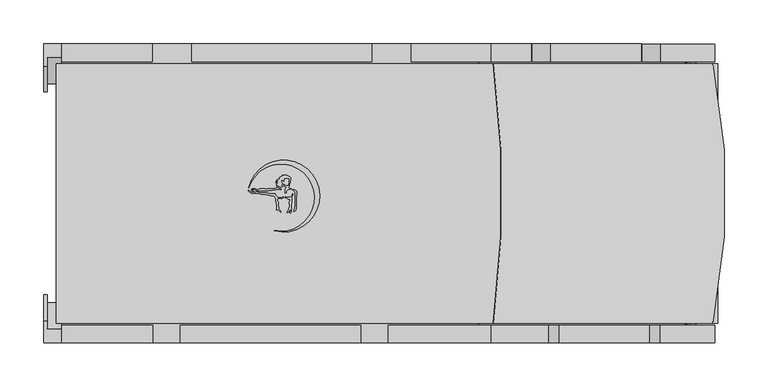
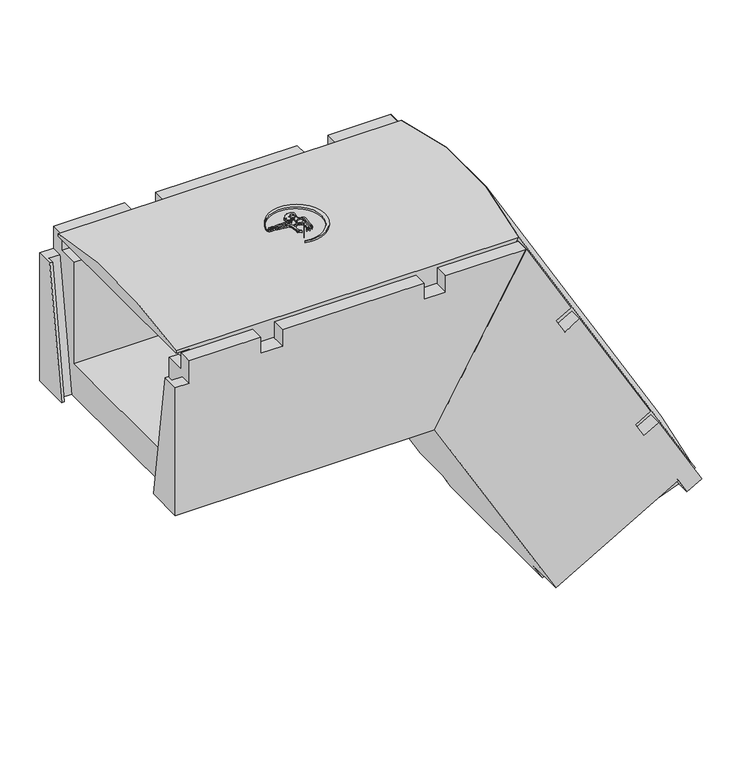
"""IFC4 building model written with IfcOpenShell, lengths in millimetres: cable carrier fitting geometry, Evotray type 2 vertical bend down : Evotray type 2 vertical bend down."""

from ifc_helpers import new_model, si_unit, point, frame, frame_2d, origin, place, context, project, spatial, polyline, circle_curve, ellipse_curve, trimmed, segment, composite_curve, outline, extrude, faceted_brep, source, transform, mapped, element, save
from ifc_brep_helpers import plane_surface, cylinder_surface, advanced_brep


def cable_carrier_fitting_b2b6a291(model_context):
    return source(origin(), model_context, "Body", "SolidModel", [
        extrude(outline(composite_curve([segment(polyline([(-105.1987673, 5.907559), (-103.7730763, 5.0844359), (-104.4820077, 4.6751342), (-107.0469375, 4.6751342), (-109.5064308, 2.2156409), (-109.5064308, 0.6319729), (-110.5639447, 0.3486129), (-110.8953119, 1.5852919), (-110.5730905, 2.7878385), (-110.5730905, 5.0146536), (-109.1065498, 6.4811943), (-109.5064308, 7.1738084), (-110.5730905, 7.7896447), (-111.4313624, 8.2851682), (-112.4244859, 9.2782918), (-112.4244859, 10.5283487), (-111.6366917, 10.0735155), (-110.5730905, 9.0099142), (-109.5064308, 8.394078), (-107.1936661, 8.394078), (-106.5617675, 9.0259766), (-106.5617675, 10.6343813), (-106.1559104, 11.3373462), (-105.9163405, 12.2314336), (-105.9163405, 16.3268685), (-106.5617675, 16.9722955), (-110.5730905, 17.3232408), (-111.3212546, 16.8912881), (-111.7531031, 16.1433045), (-111.9754965, 15.313321), (-112.2482129, 13.7666695), (-112.8042347, 14.3226912), (-113.3698905, 14.8883471), (-114.3304254, 14.8883471), (-114.8048648, 14.0665939), (-114.8048648, 13.2416885), (-114.4028177, 12.5453225), (-113.675123, 11.8176278), (-114.0717623, 10.3373496), (-114.4092623, 9.0777826), (-114.1064549, 7.3604762), (-114.907248, 7.2192748), (-116.6376932, 7.6829462), (-117.8844025, 8.2642963), (-118.6376597, 8.6155459), (-120.2371082, 8.33352), (-119.7695498, 9.1433549), (-118.1127288, 9.7463885)]), True, "CONTINUOUS"), segment(trimmed(circle_curve(frame_2d((-118.6788564, 9.4744491)), 0.6280537), [point((-118.1127288, 9.7463885))], [point((-118.8344386, 10.0829273))], True, "CARTESIAN"), True, "CONTINUOUS"), segment(polyline([(-118.8344386, 10.0829273), (-120.7814537, 10.0829273), (-120.2232755, 10.6411054), (-119.3724958, 10.9507639), (-118.5540563, 11.2486515)]), True, "CONTINUOUS"), segment(trimmed(circle_curve(frame_2d((-119.2923812, 11.2486515)), 0.7383249), [point((-118.5540563, 11.2486515))], [point((-119.2923812, 11.9869764))], True, "CARTESIAN"), True, "CONTINUOUS"), segment(polyline([(-119.2923812, 11.9869764), (-121.0001288, 11.9869764), (-121.3916504, 12.6651117), (-119.5730583, 12.9857785), (-118.2767203, 13.457607), (-118.897473, 14.0783597), (-120.8606925, 14.0783597), (-120.30811, 14.6309421), (-119.2782773, 15.2255163), (-118.603553, 15.9002407), (-117.8807357, 16.3175594), (-116.9057237, 16.8804829)]), True, "CONTINUOUS"), segment(trimmed(circle_curve(frame_2d((-117.1167091, 17.2459203)), 0.4219708), [point((-116.9057237, 16.8804829))], [point((-117.3276945, 17.6113577))], True, "CARTESIAN"), True, "CONTINUOUS"), segment(polyline([(-117.3276945, 17.6113577), (-116.7102978, 18.2287544), (-115.4076278, 18.7028875), (-114.4125713, 19.2773836), (-113.2810347, 19.4769041), (-113.6348604, 20.4490324), (-108.6348604, 20.4490324), (-107.6206866, 19.9761154), (-106.4988316, 19.6755153), (-105.4843855, 19.0898245), (-104.3757091, 17.9811481), (-104.3757091, 15.4151328), (-104.8646262, 14.5683035), (-104.8646262, 11.8362675), (-105.3536612, 10.7875287), (-105.760463, 10.0829273), (-105.760463, 8.2341629), (-106.5617675, 7.7715296), (-107.3950459, 7.6246001)]), True, "CONTINUOUS"), segment(trimmed(circle_curve(frame_2d((-106.3420944, 7.3424626)), 1.0900956), [point((-107.3950459, 7.6246001))], [point((-106.6242319, 6.2895111))], True, "CARTESIAN"), True, "CONTINUOUS"), segment(polyline([(-106.6242319, 6.2895111), (-105.1987673, 5.907559)]), True, "CONTINUOUS")], self_intersect=False)), frame((0.0, 0.0, 229.0645802), z_axis=(0.0, 0.0, 1.0), x_axis=(1.0, 0.0, 0.0)), (0.0, 0.0, 1.0), 22.5),
        extrude(outline(polyline([(-100.6420581, 3.0525563), (-102.5647021, 4.1625953), (-101.375462, 4.4812513), (-100.0006066, 3.9808448), (-97.8744575, 2.753312), (-97.462808, 1.2170154), (-97.462808, -1.5561738), (-97.8811889, -3.9289297), (-98.2073261, -13.2682758), (-98.2073261, -16.1231727), (-98.766974, -19.297094), (-99.9259981, -20.4561181), (-100.8234867, -20.4561181), (-100.1486125, -18.6019165), (-99.8396569, -16.8497423), (-99.3251997, -13.9321102), (-99.3251997, -2.6926455), (-98.883565, -0.1880111), (-99.4260419, 1.8365401), (-100.6420581, 3.0525563)])), frame((0.0, 0.0, 229.0645802), z_axis=(0.0, 0.0, 1.0), x_axis=(1.0, 0.0, 0.0)), (0.0, 0.0, 1.0), 22.5),
        extrude(outline(composite_curve([segment(polyline([(-108.070307, -4.5554644), (-106.0881056, -4.5554644), (-104.6198413, -4.2965698), (-103.3145593, -2.9912878), (-102.1344504, -0.4605362), (-101.6534984, -1.7819409), (-102.2762062, -3.117342), (-102.9468137, -4.5554644), (-102.9468137, -10.5136603), (-103.3751928, -12.943119), (-103.3751928, -21.4242609), (-104.8238515, -22.8729196), (-105.3965887, -22.3001824), (-104.7178687, -20.5578122), (-104.4597233, -19.0937972)]), True, "CONTINUOUS"), segment(trimmed(circle_curve(frame_2d((-104.8743713, -19.0937972)), 0.414648), [point((-104.4597233, -19.0937972))], [point((-105.2890194, -19.0937972))], True, "CARTESIAN"), True, "CONTINUOUS"), segment(polyline([(-105.2890194, -19.0937972), (-106.0547081, -19.8594859), (-107.3215546, -21.3692548), (-107.9770637, -22.0247639), (-108.7693849, -21.6552984), (-106.605165, -18.4467105), (-106.2992553, -16.7118106), (-105.4571975, -14.9060116), (-105.19999, -13.4473154), (-105.9884987, -12.0815782), (-105.9884987, -9.315031), (-104.6653502, -7.4454743)]), True, "CONTINUOUS"), segment(trimmed(circle_curve(frame_2d((-105.0024552, -7.2068937)), 0.4129897), [point((-104.6653502, -7.4454743))], [point((-105.2410358, -6.8697887))], True, "CARTESIAN"), True, "CONTINUOUS"), segment(polyline([(-105.2410358, -6.8697887), (-107.2448508, -6.516462), (-108.6887473, -5.843162), (-110.508748, -4.9944818), (-110.508748, -4.1255015), (-108.070307, -4.5554644)]), True, "CONTINUOUS")], self_intersect=False)), frame((0.0, 0.0, 229.0645802), z_axis=(0.0, 0.0, 1.0), x_axis=(1.0, 0.0, 0.0)), (0.0, 0.0, 1.0), 22.5),
        extrude(outline(composite_curve([segment(polyline([(-150.4819029, 2.2537302), (-148.7462291, 1.4443722), (-144.5597552, 1.4443722), (-143.4890341, 1.731271), (-142.1624965, 1.731271), (-140.4413877, 1.4443722), (-138.4350656, 0.9067798), (-137.2818775, 0.597784), (-131.5899708, 0.597784), (-128.9734749, 0.1616293), (-127.6459123, -0.19409), (-122.03167, -0.19409)]), True, "CONTINUOUS"), segment(trimmed(circle_curve(frame_2d((-113.1781038, 2.7115165)), 9.3181642), [point((-122.03167, -0.19409))], [point((-118.6774022, -4.8108435))], True, "CARTESIAN"), True, "CONTINUOUS"), segment(polyline([(-118.6774022, -4.8108435), (-115.6256174, -4.8108435), (-113.5910388, -4.632841), (-112.4520349, -4.1017147), (-112.7095548, -5.0627921), (-113.6536491, -5.6078652), (-114.612336, -5.9567987), (-117.847041, -5.8438403), (-119.0357356, -6.2764898), (-119.44473, -7.153581), (-119.3696494, -8.0117562), (-118.8907652, -8.8412079), (-118.1701597, -9.5618134), (-118.1701597, -11.3180259), (-118.53546, -12.3216801), (-118.3911934, -13.970655), (-117.8861011, -15.8556852), (-117.737982, -17.5486944), (-115.3666469, -20.2766033), (-115.5753239, -21.4600691), (-118.1701597, -18.8652332), (-119.1329913, -19.1232231), (-120.5361675, -18.8758053), (-120.2606072, -18.1187094), (-120.2606072, -15.8446539), (-120.0850033, -14.8487551), (-120.2606072, -12.8415943), (-120.6362696, -11.8094702), (-120.6362696, -9.9842873), (-121.0826053, -9.0271173), (-121.0826053, -6.6493678), (-121.3310455, -5.7221762), (-121.7830159, -4.9393406), (-122.2317276, -4.1621491), (-122.84617, -3.5477067), (-123.2800213, -2.6173096), (-126.8809595, -2.4915621), (-129.2251115, -2.1008055), (-131.2577048, -1.5561738), (-134.5993244, -1.2049554), (-136.6789374, -1.2049554), (-138.021172, -0.8453047), (-139.5447671, -0.4370587), (-140.8880204, 0.1893106), (-141.8824091, 0.1893106), (-144.5338495, 0.1893106), (-145.6460936, -0.1087143), (-147.5093755, 0.0871245), (-148.9984504, 0.3353447), (-150.6717579, 1.1156208), (-151.6476843, 2.0915471), (-152.2867674, 2.7306302), (-152.2867674, 3.5175099), (-150.4819029, 2.2537302)]), True, "CONTINUOUS")], self_intersect=False)), frame((0.0, 0.0, 229.0645802), z_axis=(0.0, 0.0, 1.0), x_axis=(1.0, 0.0, 0.0)), (0.0, 0.0, 1.0), 22.5),
        extrude(outline(composite_curve([segment(polyline([(-147.9796703, 3.7977023), (-146.956356, 3.2068915), (-148.6840165, 3.7265624), (-149.014163, 4.6441261), (-148.1758386, 5.4824506), (-145.30302, 5.4824506), (-144.318583, 5.0847122), (-143.2280942, 4.6441261), (-142.4299007, 4.1832889), (-141.1696706, 4.1832889), (-140.3486455, 4.4787), (-139.4633932, 4.9898007), (-133.0496883, 4.9898007), (-132.1941137, 4.6441261), (-131.1237116, 4.6441261), (-130.1629915, 4.9898007), (-128.9838348, 4.9898007), (-128.2654957, 5.4045339), (-122.8528405, 5.4045339), (-122.0925598, 5.6780888), (-120.8504018, 5.6780888), (-120.2746333, 6.2538574), (-118.3170698, 6.2538574), (-117.0290688, 5.7334711), (-116.0171524, 5.1492409), (-115.2127113, 4.8242256)]), True, "CONTINUOUS"), segment(trimmed(circle_curve(frame_2d((-115.6200436, 4.6596527)), 0.4393221), [point((-115.2127113, 4.8242256))], [point((-115.7846166, 4.2523203))], False, "CARTESIAN"), True, "CONTINUOUS"), segment(polyline([(-115.7846166, 4.2523203), (-116.8003453, 4.6627013), (-118.112003, 4.6627013), (-119.382433, 4.8867124), (-120.1944574, 4.5945398), (-121.3374314, 4.1832889), (-124.6816293, 4.1832889), (-125.4727027, 3.7265624), (-129.0400229, 3.7265624), (-129.9228853, 3.2168416), (-139.9228853, 3.2168416), (-142.5335493, 2.9884381), (-146.222077, 4.4787), (-148.3728446, 4.4787), (-147.9796703, 3.7977023)]), True, "CONTINUOUS")], self_intersect=False)), frame((0.0, 0.0, 229.0645802), z_axis=(0.0, 0.0, 1.0), x_axis=(1.0, 0.0, 0.0)), (0.0, 0.0, 1.0), 22.5),
        extrude(outline(composite_curve([segment(trimmed(circle_curve(frame_2d((-115.3994103, -4.8721323)), 38.3616107), [point((-122.8072471, -42.511701))], [point((-152.1109456, 6.2578432))], True, "CARTESIAN"), True, "CONTINUOUS"), segment(trimmed(circle_curve(frame_2d((-112.2700096, -2.9917986)), 40.900563), [point((-152.1109456, 6.2578432))], [point((-122.8072471, -42.511701))], False, "CARTESIAN"), True, "CONTINUOUS")], self_intersect=False)), frame((0.0, 0.0, 229.0645802), z_axis=(0.0, 0.0, 1.0), x_axis=(1.0, 0.0, 0.0)), (0.0, 0.0, 1.0), 22.5),
        advanced_brep(
        [(109.4418876, -147.5, 205.0), (356.6628314, -147.5, -223.1992354), (381.7567344, -147.5, -208.7112637), (375.7567344, -147.5, -198.3189589), (126.1850454, -147.5, 234.0), (356.6628314, 147.5, -223.1992354), (109.4418876, 147.5, 205.0), (126.1850454, 147.5, 234.0), (375.7775681, 147.5, -198.3069305), (381.7567344, 147.5, -208.7112637)],
        [
            (0, 1),
            (1, 2),
            (2, 3),
            (3, 4),
            (4, 0),
            (5, 6),
            (6, 7),
            (7, 8),
            (8, 9),
            (9, 5),
            (1, 5),
            (9, 2),
            (6, 0),
            (4, 7, ellipse_curve(frame((-239.9889758, 0.0, -400.2320092), z_axis=(-0.8660254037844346, 0.0, 0.5000000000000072), x_axis=(-0.5000000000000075, 0.0, -0.8660254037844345)), 751.892272, 651.1578084)),
            (8, 3),
            (8, 3, circle_curve(frame((-173.4834637, 0.0, -515.4229351), z_axis=(0.4999999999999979, 0.0, -0.8660254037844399), x_axis=(0.0, -1.0, 0.0)), 651.1578084)),
        ],
        [
            plane_surface(frame((356.6628314, -147.5, -223.1992354), z_axis=(0.0, -1.0, 0.0), x_axis=(0.8660254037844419, 0.0, 0.49999999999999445))),
            plane_surface(frame((356.6628314, 147.5, -223.1992354), z_axis=(0.0, 1.0, 0.0), x_axis=(-0.8660254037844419, 0.0, -0.49999999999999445))),
            plane_surface(frame((356.6628314, -147.5, -223.1992354), z_axis=(0.49999999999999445, 0.0, -0.8660254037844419), x_axis=(0.0, 1.0, 0.0))),
            plane_surface(frame((136.0, -147.5, 251.0), z_axis=(-0.8660254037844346, 0.0, 0.5000000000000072), x_axis=(0.0, 1.0, 0.0))),
            plane_surface(frame((109.4418876, -147.5, 205.0), z_axis=(-0.8660254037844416, 0.0, -0.49999999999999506), x_axis=(0.0, 1.0, 0.0))),
            plane_surface(frame((381.7567344, -147.5, -208.7112637), z_axis=(0.8660254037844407, 0.0, 0.49999999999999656), x_axis=(-0.49999999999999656, 0.0, 0.8660254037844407))),
            plane_surface(frame((375.7567344, -147.5, -198.3189589), z_axis=(0.4999999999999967, 0.0, -0.8660254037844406), x_axis=(0.8660254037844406, 0.0, 0.4999999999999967))),
            cylinder_surface(frame((-421.3439356, 0.0, -86.1160046), z_axis=(0.4999999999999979, 0.0, -0.8660254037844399), x_axis=(0.0, -1.0, 0.0)), 651.1578084),
        ],
        [
            (0, [[1, 2, 3, 4, 5]]),
            (1, [[6, 7, 8, 9, 10]]),
            (2, [[11, -10, 12, -2]]),
            (3, [[13, -5, 14, -7]]),
            (4, [[-1, -13, -6, -11]]),
            (5, [[15, -3, -12, -9]]),
            (6, [[-15, 16]]),
            (7, [[-4, -16, -8, -14]]),
        ],
    ),
        advanced_brep(
        [(-351.0, -147.5, 205.0), (109.4418876, -147.5, 205.0), (126.1850454, -147.5, 234.0), (-371.0, -147.5, 234.0), (-371.0, -147.5, 230.0), (-351.0, -147.5, 230.0), (109.4418876, 147.5, 205.0), (-351.0, 147.5, 205.0), (-351.0, 147.5, 230.0), (-371.0, 147.5, 230.0), (-371.0, 147.5, 234.0), (126.1850454, 147.5, 234.0)],
        [
            (0, 1),
            (1, 2),
            (2, 3),
            (3, 4),
            (4, 5),
            (5, 0),
            (6, 7),
            (7, 8),
            (8, 9),
            (9, 10),
            (10, 11),
            (11, 6),
            (9, 4),
            (3, 10, circle_curve(frame((-371.0, 0.0, -400.2320092), z_axis=(-1.0, 0.0, 0.0), x_axis=(0.0, -1.0, 0.0)), 651.1578084)),
            (6, 1),
            (0, 7),
            (11, 2, ellipse_curve(frame((-239.9889758, 0.0, -400.2320092), z_axis=(0.8660254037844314, 0.0, -0.5000000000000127), x_axis=(0.5000000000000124, 0.0, 0.8660254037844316)), 751.892272, 651.1578084)),
            (8, 5),
        ],
        [
            plane_surface(frame((-371.0, -147.5, 205.0), z_axis=(0.0, -1.0, 0.0), x_axis=(0.0, 0.0, -1.0))),
            plane_surface(frame((-371.0, 147.5, 205.0), z_axis=(0.0, 1.0, 0.0), x_axis=(0.0, 0.0, 1.0))),
            plane_surface(frame((-371.0, -147.5, 251.0), z_axis=(-1.0, 0.0, 0.0), x_axis=(0.0, 1.0, 0.0))),
            plane_surface(frame((-371.0, -147.5, 205.0), z_axis=(0.0, 0.0, -1.0), x_axis=(0.0, 1.0, 0.0))),
            plane_surface(frame((109.4418876, -147.5, 205.0), z_axis=(0.8660254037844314, 0.0, -0.5000000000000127), x_axis=(0.0, 1.0, 0.0))),
            plane_surface(frame((-371.0, 147.5, 230.0), z_axis=(0.0, 0.0, -1.0), x_axis=(-1.0, 0.0, 0.0))),
            plane_surface(frame((-351.0, -147.5, 230.0), z_axis=(-1.0, 0.0, 0.0), x_axis=(0.0, 0.0, -1.0))),
            cylinder_surface(frame((-371.0, 0.0, -400.2320092), z_axis=(1.0, 0.0, 0.0), x_axis=(0.0, -1.0, 0.0)), 651.1578084),
        ],
        [
            (0, [[1, 2, 3, 4, 5, 6]]),
            (1, [[7, 8, 9, 10, 11, 12]]),
            (2, [[13, -4, 14, -10]]),
            (3, [[15, -1, 16, -7]]),
            (4, [[-15, -12, 17, -2]]),
            (5, [[18, -5, -13, -9]]),
            (6, [[-18, -8, -16, -6]]),
            (7, [[-3, -17, -11, -14]]),
        ],
    ),
        faceted_brep([(123.8756443, -170.0, 230.0), (-8.9149176, -170.0, 0.0), (166.6276237, -170.0, -304.0486003), (344.1628314, -170.0, -201.5486003), (356.6628314, -170.0, -223.1992354), (378.3134665, -170.0, -210.6992354), (316.3134665, -170.0, -103.3120853), (294.6628314, -170.0, -115.8120853), (282.1628314, -170.0, -94.1614502), (303.8134665, -170.0, -81.6614502), (201.3134665, -170.0, 95.8737576), (179.6628314, -170.0, 83.3737576), (167.1628314, -170.0, 105.0243927), (188.8134665, -170.0, 117.5243927), (-8.9149176, 170.0, 0.0), (123.8756443, 170.0, 230.0), (169.3134665, 170.0, 151.2993834), (147.6628314, 170.0, 138.7993834), (170.1628314, 170.0, 99.8282402), (191.8134665, 170.0, 112.3282402), (294.3134665, 170.0, -65.2069675), (272.6628314, 170.0, -77.7069675), (295.1628314, 170.0, -116.6781107), (316.8134665, 170.0, -104.1781107), (378.3134665, 170.0, -210.6992354), (356.6628314, 170.0, -223.1992354), (344.1628314, 170.0, -201.5486003), (166.6276237, 170.0, -304.0486003), (356.6628314, -120.0, -223.1992354), (356.6628314, -150.0, -223.1992354), (179.1276237, -115.4, -325.6992354), (179.1276237, 115.4, -325.6992354), (356.6628314, 150.0, -223.1992354), (356.6628314, 120.0, -223.1992354), (222.4288938, 120.0, -300.6992354), (222.4288938, -120.0, -300.6992354), (378.3134665, -150.0, -210.6992354), (378.3134665, 150.0, -210.6992354), (303.8134665, -150.0, -81.6614502), (201.3134665, -150.0, 95.8737576), (191.8134665, 150.0, 112.3282402), (294.3134665, 150.0, -65.2069675), (316.3134665, -150.0, -103.3120853), (316.8134665, 150.0, -104.1781107), (123.8756443, -150.0, 230.0), (188.8134665, -150.0, 117.5243927), (123.8756443, 150.0, 230.0), (169.3134665, 150.0, 151.2993834), (109.4418876, -150.0, 205.0), (109.4418876, -120.0, 205.0), (19.9525959, -120.0, 50.0), (19.9525959, 120.0, 50.0), (109.4418876, 120.0, 205.0), (109.4418876, 150.0, 205.0), (166.6276237, 113.0, -304.0486003), (172.6276237, 113.0, -314.4409051), (172.6276237, 115.4, -314.4409051), (172.6276237, -115.4, -314.4409051), (172.6276237, -113.0, -314.4409051), (166.6276237, -113.0, -304.0486003), (350.1628314, -150.0, -211.9409051), (344.1628314, -150.0, -201.5486003), (294.6628314, -150.0, -115.8120853), (282.1628314, -150.0, -94.1614502), (179.6628314, -150.0, 83.3737576), (167.1628314, -150.0, 105.0243927), (295.1628314, 150.0, -116.6781107), (344.1628314, 150.0, -201.5486003), (350.1628314, 150.0, -211.9409051), (170.1628314, 150.0, 99.8282402), (272.6628314, 150.0, -77.7069675), (147.6628314, 150.0, 138.7993834), (344.1628314, -147.6, -201.5486003), (350.1628314, -147.6, -211.9409051), (350.1628314, 147.6, -211.9409051), (344.1628314, 147.6, -201.5486003)], [[[0, 1, 2, 3, 4, 5, 6, 7, 8, 9, 10, 11, 12, 13]], [[14, 15, 16, 17, 18, 19, 20, 21, 22, 23, 24, 25, 26, 27]], [[28, 29, 30, 31, 32, 33, 34, 35]], [[36, 5, 4, 29]], [[24, 37, 32, 25]], [[10, 9, 38, 39]], [[20, 19, 40, 41]], [[5, 36, 42, 6]], [[37, 24, 23, 43]], [[44, 0, 13, 45]], [[15, 46, 47, 16]], [[1, 0, 44, 48, 49, 50, 51, 52, 53, 46, 15, 14]], [[1, 14, 27, 54, 55, 56, 31, 30, 57, 58, 59, 2]], [[36, 29, 60, 61, 62, 42]], [[39, 38, 63, 64]], [[48, 44, 45, 65]], [[32, 37, 43, 66, 67, 68]], [[41, 40, 69, 70]], [[46, 53, 71, 47]], [[49, 48, 65, 12, 11, 64, 63, 8, 7, 62, 61, 72, 73, 60, 29, 28]], [[53, 52, 33, 32, 68, 74, 75, 67, 66, 22, 21, 70, 69, 18, 17, 71]], [[35, 50, 49, 28]], [[51, 34, 33, 52]], [[50, 35, 34, 51]], [[60, 29, 4, 3, 61]], [[29, 60, 57, 30]], [[32, 68, 67, 26, 25]], [[68, 32, 31, 56]], [[58, 73, 72, 59]], [[59, 72, 61, 3, 2]], [[73, 58, 57, 60]], [[54, 75, 74, 55]], [[75, 54, 27, 26, 67]], [[55, 74, 68, 56]], [[70, 21, 20, 41]], [[22, 66, 43, 23]], [[62, 7, 6, 42]], [[8, 63, 38, 9]], [[71, 17, 16, 47]], [[18, 69, 40, 19]], [[64, 11, 10, 39]], [[12, 65, 45, 13]]]),
        faceted_brep([(-385.0, -170.0, 0.0), (-8.9149176, -170.0, 0.0), (123.8756443, -170.0, 230.0), (6.6963481, -170.0, 230.0), (6.6963481, -170.0, 205.0), (-24.6518259, -170.0, 205.0), (-24.6518259, -170.0, 230.0), (-229.6518259, -170.0, 230.0), (-229.6518259, -170.0, 205.0), (-261.0, -170.0, 205.0), (-261.0, -170.0, 230.0), (-365.0130369, -170.0, 230.0), (-365.0130369, -170.0, 196.0), (-385.0, -170.0, 196.0), (123.8756443, 170.0, 230.0), (-8.9149176, 170.0, 0.0), (-385.0, 170.0, 0.0), (-385.0, 170.0, 196.0), (-365.0130369, 170.0, 196.0), (-365.0130369, 170.0, 230.0), (-262.0, 170.0, 230.0), (-262.0, 170.0, 205.0), (-217.0, 170.0, 205.0), (-217.0, 170.0, 230.0), (-12.0, 170.0, 230.0), (-12.0, 170.0, 205.0), (33.0, 170.0, 205.0), (33.0, 170.0, 230.0), (-24.6518259, -150.0, 230.0), (-229.6518259, -150.0, 230.0), (-217.0, 150.0, 230.0), (-12.0, 150.0, 230.0), (123.8756443, -150.0, 230.0), (6.6963481, -150.0, 230.0), (123.8756443, 150.0, 230.0), (33.0, 150.0, 230.0), (-365.0130369, -150.0, 230.0), (-261.0, -150.0, 230.0), (-365.0130369, 150.0, 230.0), (-262.0, 150.0, 230.0), (-385.0, -115.45, 0.0), (-385.0, -144.8926087, 196.0), (-385.0, 115.45, 0.0), (-385.0, 144.8926087, 196.0), (-381.0, -115.45, 0.0), (-381.0, -124.6, 0.0), (-365.0, -124.6, 0.0), (-365.0, 124.6, 0.0), (-381.0, 124.6, 0.0), (-381.0, 115.45, 0.0), (109.4418876, 150.0, 205.0), (109.4418876, 120.0, 205.0), (19.9525959, 120.0, 50.0), (19.9525959, -120.0, 50.0), (109.4418876, -120.0, 205.0), (109.4418876, -150.0, 205.0), (-381.0, 144.8926087, 196.0), (-381.0, -144.8926087, 196.0), (-365.0, 154.0426087, 196.0), (-381.0, 154.0426087, 196.0), (-381.0, -154.0426087, 196.0), (-365.0, -154.0426087, 196.0), (-365.0, -150.0, 205.0), (-365.0, -147.5, 205.0), (-365.0, -120.0, 205.0), (-365.0, -120.0, 50.0), (-365.0, 120.0, 50.0), (-365.0, 120.0, 205.0), (-365.0, 147.5, 205.0), (-365.0, 150.0, 205.0), (-24.6518259, -150.0, 205.0), (-229.6518259, -150.0, 205.0), (6.6963481, -150.0, 205.0), (-261.0, -150.0, 205.0), (-217.0, 150.0, 205.0), (-12.0, 150.0, 205.0), (33.0, 150.0, 205.0), (-262.0, 150.0, 205.0), (-351.0, 120.0, 205.0), (-351.0, -120.0, 205.0)], [[[0, 1, 2, 3, 4, 5, 6, 7, 8, 9, 10, 11, 12, 13]], [[14, 15, 16, 17, 18, 19, 20, 21, 22, 23, 24, 25, 26, 27]], [[7, 6, 28, 29]], [[24, 23, 30, 31]], [[2, 32, 33, 3]], [[34, 14, 27, 35]], [[36, 11, 10, 37]], [[19, 38, 39, 20]], [[40, 0, 13, 41]], [[16, 42, 43, 17]], [[1, 0, 40, 44, 45, 46, 47, 48, 49, 42, 16, 15]], [[2, 1, 15, 14, 34, 50, 51, 52, 53, 54, 55, 32]], [[42, 49, 56, 43]], [[44, 40, 41, 57]], [[48, 47, 58, 59]], [[45, 44, 57, 60]], [[49, 48, 59, 56]], [[46, 45, 60, 61]], [[47, 46, 61, 12, 11, 36, 62, 63, 64, 65, 66, 67, 68, 69, 38, 19, 18, 58]], [[12, 61, 60, 57, 41, 13]], [[58, 18, 17, 43, 56, 59]], [[29, 28, 70, 71]], [[32, 55, 72, 33]], [[62, 36, 37, 73]], [[31, 30, 74, 75]], [[50, 34, 35, 76]], [[38, 69, 77, 39]], [[51, 50, 76, 26, 25, 75, 74, 22, 21, 77, 69, 68, 67, 78]], [[55, 54, 79, 64, 63, 62, 73, 9, 8, 71, 70, 5, 4, 72]], [[53, 65, 64, 79, 54]], [[66, 52, 51, 78, 67]], [[65, 53, 52, 66]], [[77, 21, 20, 39]], [[22, 74, 30, 23]], [[9, 73, 37, 10]], [[71, 8, 7, 29]], [[75, 25, 24, 31]], [[26, 76, 35, 27]], [[5, 70, 28, 6]], [[72, 4, 3, 33]]]),
    ])


if __name__ == "__main__":
    model = new_model("IFC4")
    model_context = context("Model", 3, world=origin())
    ifc_project = project(units=[si_unit("LENGTHUNIT", "METRE", prefix="MILLI")], contexts=[model_context])
    site = spatial("IfcSite", under=ifc_project)
    building = spatial("IfcBuilding", under=site)
    placement = place(None, origin())
    cable_carrier_fitting_shape = cable_carrier_fitting_b2b6a291(model_context)
    element("IfcCableCarrierFitting", 1, ObjectType="Evotray type 2 vertical bend down : Evotray type 2 vertical bend down", at=placement, inside=building, context=model_context, shape_type="MappedRepresentation", body=[
        mapped(cable_carrier_fitting_shape, transform((0.0, 0.0, 0.0), x_axis=(1.0, 0.0, 0.0), y_axis=(0.0, 1.0, 0.0), z_axis=(0.0, 0.0, 1.0))),
    ])
    save(model, "model.ifc")
